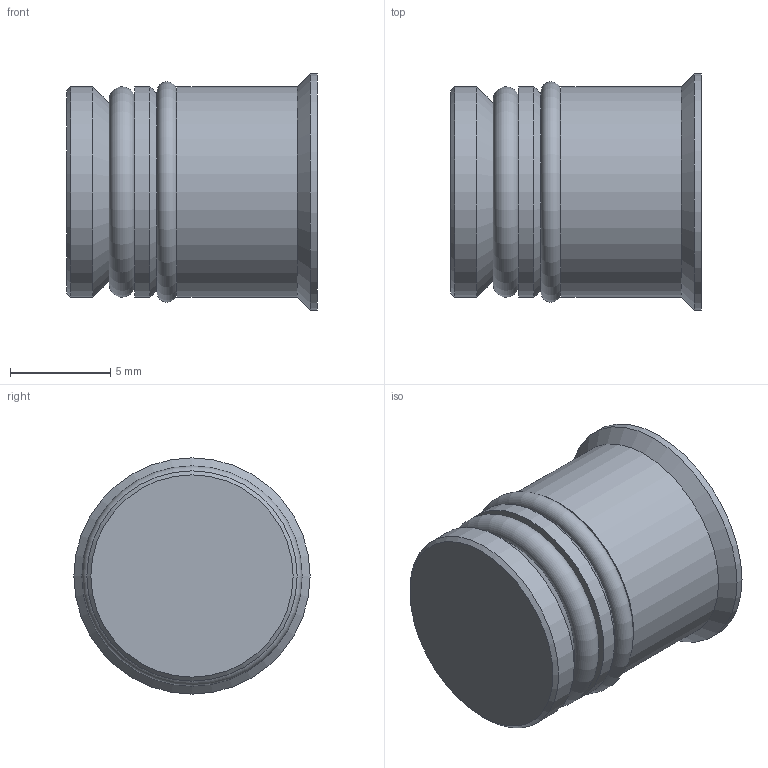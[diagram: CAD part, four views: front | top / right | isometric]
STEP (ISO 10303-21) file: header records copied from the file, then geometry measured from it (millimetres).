
FILE_DESCRIPTION( ( 'STEP AP214' ), '1' );
FILE_NAME( 'p:/temp/worker_118/temp/exporttempdir_2012_158_1QaUT/format_0/TR-10.stp', '2021-02-08T19:21:08', ( 'License CC BY-ND 4.0' ), ( 'CADENAS' ), ' ', 'PARTsolutions', ' ' );
FILE_SCHEMA( ( 'AUTOMOTIVE_DESIGN { 1 0 10303 214 1 1 1 1 }' ) );
Length unit declared in the file: millimetre
Products named in the file (1): _TR-10
Bounding box: 12.5 x 11.8 x 11.8 mm (x, y, z)
Volume: 978.4 mm3; surface area: 866.8 mm2
Topology: 1 solids, 1 shells, 31 faces, 66 edges, 42 vertices
Faces by surface type: plane 19, cone 5, cylinder 5, torus 2
Full cylindrical faces by diameter (mm): 6 x1, 10.5 x3, 11.8 x1
Entity records: 1022 total; most frequent: DIRECTION 132, CARTESIAN_POINT 126, ORIENTED_EDGE 104, EDGE_CURVE 52, AXIS2_PLACEMENT_3D 48, EDGE_LOOP 48, VERTEX_POINT 42, FACE_OUTER_BOUND 38
